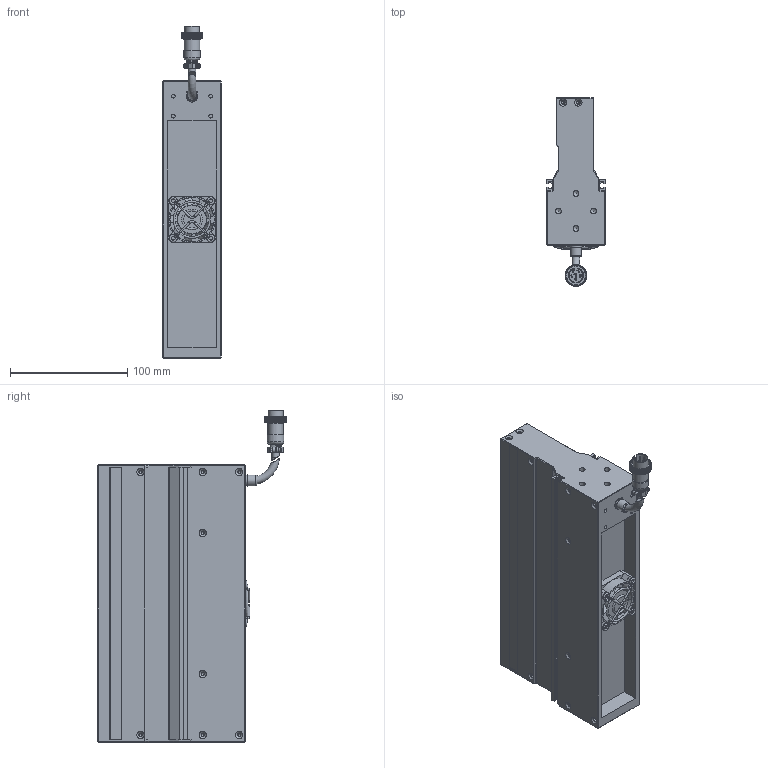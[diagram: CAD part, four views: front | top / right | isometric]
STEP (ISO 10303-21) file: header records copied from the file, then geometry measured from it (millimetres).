
FILE_DESCRIPTION (( 'STEP AP203' ), '1' );
FILE_NAME ('OPT-LSSC236-R-V3.1尨砩芞.STEP', '2025-02-05T01:47:23', ( 'USER' ), ( '' ), 'SwSTEP 2.0', 'SolidWorks 2016', '' );
FILE_SCHEMA (( 'CONFIG_CONTROL_DESIGN' ));
Products named in the file (2): OPT-LSSC236-R-V3.1尨砩芞
Bounding box: 50 x 160.65 x 282.83 mm (x, y, z)
Volume: 903878.4 mm3; surface area: 173672 mm2
Topology: 9 solids, 17 shells, 3589 faces, 7948 edges, 4444 vertices
Faces by surface type: bspline 2086, cylinder 705, plane 690, cone 63, torus 45
Full cylindrical faces by diameter (mm): 0.95 x6, 1.6 x4, 2 x5, 2.5 x20, 3.2 x8, 3.4 x22, 3.5 x4, 5 x8, 6.2 x4, 6.4 x3, 7.5 x1, 8.6 x1, 9.3 x1, 9.8 x1, 10 x1, 13.2 x1, 14 x1, 16.1 x1, 24.8 x1, 38 x1
Entity records: 120986 total; most frequent: CARTESIAN_POINT 61372, ORIENTED_EDGE 15404, EDGE_CURVE 7702, DIRECTION 5742, B_SPLINE_CURVE_WITH_KNOTS 5449, VERTEX_POINT 4379, EDGE_LOOP 3853, FACE_OUTER_BOUND 3709
